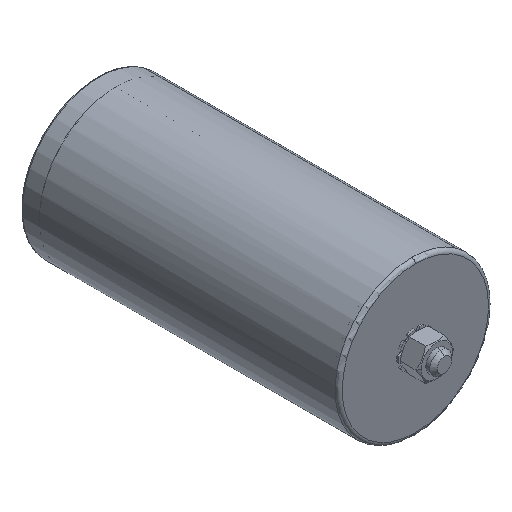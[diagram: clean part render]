
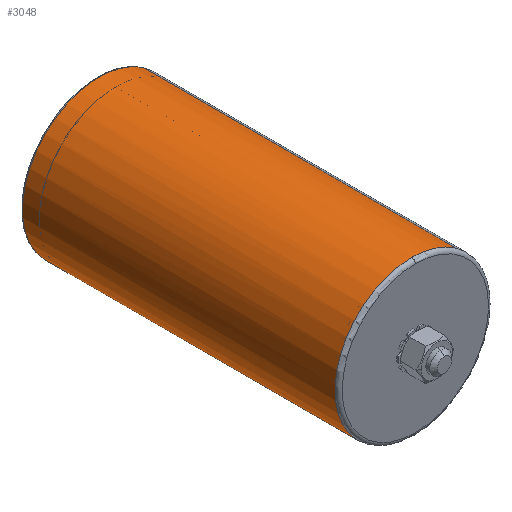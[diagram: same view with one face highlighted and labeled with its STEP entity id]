
A CAD part, isometric view. The second image highlights one B-rep face of the part: STEP entity #3048.
In plain terms, the highlighted cylindrical face has radius 42.5 mm (diameter 85 mm), a partial arc.
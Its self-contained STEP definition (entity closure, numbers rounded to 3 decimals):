
#90 = VERTEX_POINT ( 'NONE', #3706 ) ;
#327 = EDGE_CURVE ( 'NONE', #90, #2594, #7026, .T. ) ;
#357 = VERTEX_POINT ( 'NONE', #4709 ) ;
#531 = ORIENTED_EDGE ( 'NONE', *, *, #5271, .F. ) ;
#718 = CARTESIAN_POINT ( 'NONE',  ( 18.6, 4.456, 115.414 ) ) ;
#930 = LINE ( 'NONE', #4520, #2871 ) ;
#1316 = DIRECTION ( 'NONE',  ( 0., 1., 0. ) ) ;
#1855 = CARTESIAN_POINT ( 'NONE',  ( -5.777, -168.544, 80.6 ) ) ;
#1858 = EDGE_CURVE ( 'NONE', #5779, #4416, #6098, .T. ) ;
#1919 = CARTESIAN_POINT ( 'NONE',  ( -5.777, 4.456, 80.6 ) ) ;
#2103 = DIRECTION ( 'NONE',  ( 0., 1., 0. ) ) ;
#2124 = CARTESIAN_POINT ( 'NONE',  ( 18.6, -168.544, 115.414 ) ) ;
#2393 = AXIS2_PLACEMENT_3D ( 'NONE', #1855, #4479, #5201 ) ;
#2594 = VERTEX_POINT ( 'NONE', #5879 ) ;
#2672 = EDGE_LOOP ( 'NONE', ( #3681, #8022, #6052, #531, #6076 ) ) ;
#2871 = VECTOR ( 'NONE', #5455, 1000. ) ;
#2896 = CIRCLE ( 'NONE', #7480, 42.5 ) ;
#3048 = ADVANCED_FACE ( 'NONE', ( #3615 ), #6703, .T. ) ;
#3417 = CIRCLE ( 'NONE', #2393, 42.5 ) ;
#3444 = EDGE_CURVE ( 'NONE', #2594, #5779, #3417, .T. ) ;
#3459 = EDGE_CURVE ( 'NONE', #4416, #357, #2896, .T. ) ;
#3615 = FACE_OUTER_BOUND ( 'NONE', #2672, .T. ) ;
#3681 = ORIENTED_EDGE ( 'NONE', *, *, #3444, .T. ) ;
#3706 = CARTESIAN_POINT ( 'NONE',  ( -30.154, -168.544, 45.786 ) ) ;
#3991 = CARTESIAN_POINT ( 'NONE',  ( -5.777, -168.544, 80.6 ) ) ;
#4416 = VERTEX_POINT ( 'NONE', #718 ) ;
#4479 = DIRECTION ( 'NONE',  ( 0., 1., 0. ) ) ;
#4520 = CARTESIAN_POINT ( 'NONE',  ( -30.154, -4.544, 45.786 ) ) ;
#4709 = CARTESIAN_POINT ( 'NONE',  ( -30.154, 4.456, 45.786 ) ) ;
#5066 = VECTOR ( 'NONE', #5213, 1000. ) ;
#5201 = DIRECTION ( 'NONE',  ( 0., 0., -1. ) ) ;
#5213 = DIRECTION ( 'NONE',  ( 0., 1., 0. ) ) ;
#5271 = EDGE_CURVE ( 'NONE', #90, #357, #930, .T. ) ;
#5455 = DIRECTION ( 'NONE',  ( 0., 1., 0. ) ) ;
#5537 = DIRECTION ( 'NONE',  ( -0.574, 0., -0.819 ) ) ;
#5742 = DIRECTION ( 'NONE',  ( 0., -1., 0. ) ) ;
#5779 = VERTEX_POINT ( 'NONE', #2124 ) ;
#5879 = CARTESIAN_POINT ( 'NONE',  ( -5.777, -168.544, 123.1 ) ) ;
#5925 = AXIS2_PLACEMENT_3D ( 'NONE', #3991, #1316, #6556 ) ;
#6052 = ORIENTED_EDGE ( 'NONE', *, *, #3459, .T. ) ;
#6076 = ORIENTED_EDGE ( 'NONE', *, *, #327, .T. ) ;
#6098 = LINE ( 'NONE', #8445, #5066 ) ;
#6194 = AXIS2_PLACEMENT_3D ( 'NONE', #7965, #2103, #5537 ) ;
#6556 = DIRECTION ( 'NONE',  ( 0., 0., -1. ) ) ;
#6703 = CYLINDRICAL_SURFACE ( 'NONE', #6194, 42.5 ) ;
#7026 = CIRCLE ( 'NONE', #5925, 42.5 ) ;
#7060 = DIRECTION ( 'NONE',  ( 0.574, 0., 0.819 ) ) ;
#7480 = AXIS2_PLACEMENT_3D ( 'NONE', #1919, #5742, #7060 ) ;
#7965 = CARTESIAN_POINT ( 'NONE',  ( -5.777, -4.544, 80.6 ) ) ;
#8022 = ORIENTED_EDGE ( 'NONE', *, *, #1858, .T. ) ;
#8445 = CARTESIAN_POINT ( 'NONE',  ( 18.6, -4.544, 115.414 ) ) ;
